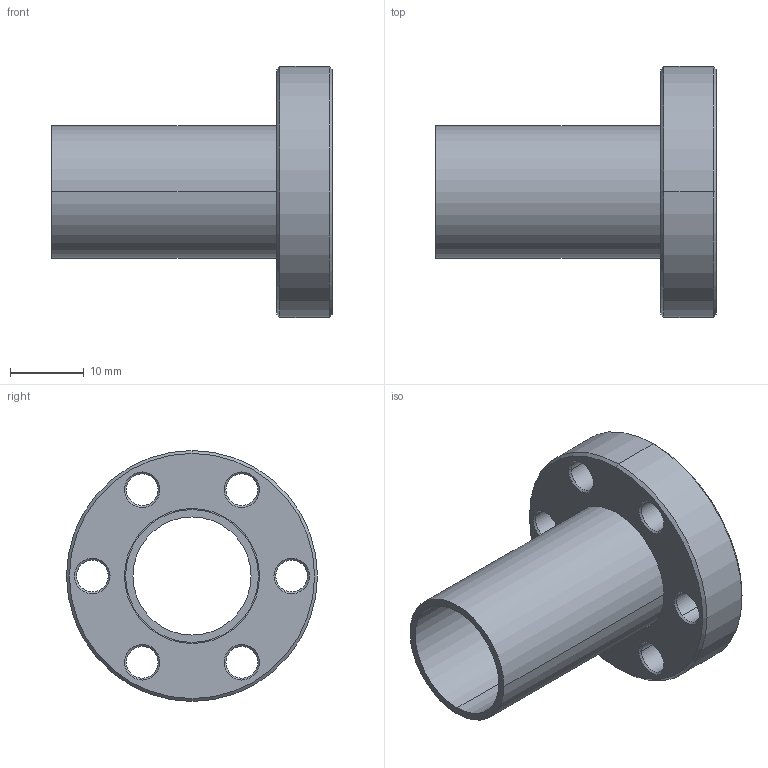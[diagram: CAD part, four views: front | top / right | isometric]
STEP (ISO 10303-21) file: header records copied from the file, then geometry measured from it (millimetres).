
FILE_DESCRIPTION((''),'2;1');
FILE_NAME('N:\Transfer\Berger Martin\Leybold\C15\83551.stp','2005-02-07T08:56:29',('VCRC_L'),(''),'Autodesk Inventor 9','Autodesk Inventor 9','');
FILE_SCHEMA(('AUTOMOTIVE_DESIGN { 1 0 10303 214 1 1 1 1 }'));
Length unit declared in the file: millimetre
Products named in the file (1): 83551
Bounding box: 38 x 34 x 34 mm (x, y, z)
Volume: 5995.2 mm3; surface area: 6627.3 mm2
Topology: 1 solids, 1 shells, 73 faces, 169 edges, 101 vertices
Faces by surface type: cone 38, bspline 18, cylinder 10, plane 5, torus 2
Entity records: 2539 total; most frequent: CARTESIAN_POINT 812, DIRECTION 390, ORIENTED_EDGE 338, EDGE_CURVE 169, AXIS2_PLACEMENT_3D 165, CIRCLE 109, VERTEX_POINT 101, EDGE_LOOP 90
